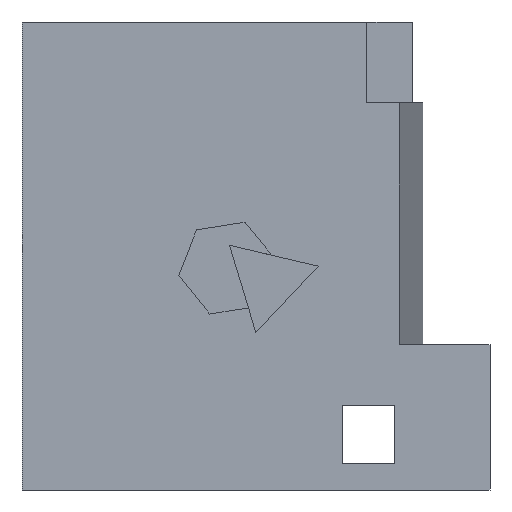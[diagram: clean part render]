
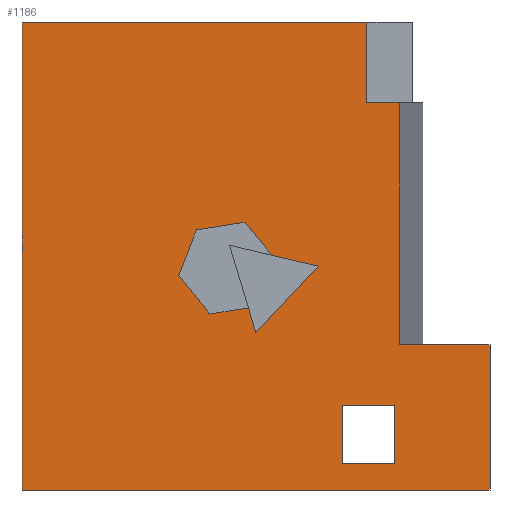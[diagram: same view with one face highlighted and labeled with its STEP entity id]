
A CAD part, left-side view. The second image highlights one B-rep face of the part: STEP entity #1186.
In plain terms, the highlighted planar face has unit normal (-1, 0, 0).
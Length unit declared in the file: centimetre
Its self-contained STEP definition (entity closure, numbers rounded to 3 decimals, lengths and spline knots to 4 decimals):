
#5 = VECTOR ( 'NONE', #46, 100. ) ;
#14 = CARTESIAN_POINT ( 'NONE',  ( 0., 627.2361, 555.7844 ) ) ;
#15 = VERTEX_POINT ( 'NONE', #320 ) ;
#20 = LINE ( 'NONE', #1095, #244 ) ;
#32 = CARTESIAN_POINT ( 'NONE',  ( 0., 500.4519, 336.9322 ) ) ;
#37 = ORIENTED_EDGE ( 'NONE', *, *, #294, .F. ) ;
#44 = VECTOR ( 'NONE', #1051, 100. ) ;
#46 = DIRECTION ( 'NONE',  ( 0., -0.988, 0.156 ) ) ;
#47 = EDGE_CURVE ( 'NONE', #54, #1374, #857, .T. ) ;
#50 = EDGE_CURVE ( 'NONE', #237, #130, #753, .T. ) ;
#54 = VERTEX_POINT ( 'NONE', #1078 ) ;
#55 = DIRECTION ( 'NONE',  ( 0., 0.974, 0.228 ) ) ;
#57 = LINE ( 'NONE', #282, #1220 ) ;
#62 = CARTESIAN_POINT ( 'NONE',  ( 0., 0., 1000. ) ) ;
#73 = CARTESIAN_POINT ( 'NONE',  ( 0., 466.4924, 501.7801 ) ) ;
#82 = ORIENTED_EDGE ( 'NONE', *, *, #922, .F. ) ;
#87 = VECTOR ( 'NONE', #555, 100. ) ;
#92 = ORIENTED_EDGE ( 'NONE', *, *, #735, .T. ) ;
#97 = CARTESIAN_POINT ( 'NONE',  ( 0., 0., 310.5844 ) ) ;
#105 = ORIENTED_EDGE ( 'NONE', *, *, #622, .F. ) ;
#118 = AXIS2_PLACEMENT_3D ( 'NONE', #150, #341, #348 ) ;
#122 = DIRECTION ( 'NONE',  ( 0., -1., 0. ) ) ;
#130 = VERTEX_POINT ( 'NONE', #359 ) ;
#133 = CARTESIAN_POINT ( 'NONE',  ( 0., 1000., 1000. ) ) ;
#146 = DIRECTION ( 'NONE',  ( 0., -1., 0. ) ) ;
#149 = DIRECTION ( 'NONE',  ( 0., 0.629, 0.777 ) ) ;
#150 = CARTESIAN_POINT ( 'NONE',  ( 0., 1000., 1000. ) ) ;
#156 = CARTESIAN_POINT ( 'NONE',  ( 0., 263.1097, 827.6337 ) ) ;
#158 = ORIENTED_EDGE ( 'NONE', *, *, #538, .T. ) ;
#175 = LINE ( 'NONE', #373, #5 ) ;
#178 = EDGE_CURVE ( 'NONE', #1316, #1374, #20, .T. ) ;
#181 = VECTOR ( 'NONE', #220, 100. ) ;
#200 = EDGE_CURVE ( 'NONE', #879, #1316, #253, .T. ) ;
#216 = DIRECTION ( 'NONE',  ( 0., -0.629, -0.777 ) ) ;
#220 = DIRECTION ( 'NONE',  ( 0., -1., 0. ) ) ;
#223 = VECTOR ( 'NONE', #471, 100. ) ;
#225 = VECTOR ( 'NONE', #960, 100. ) ;
#227 = VERTEX_POINT ( 'NONE', #238 ) ;
#237 = VERTEX_POINT ( 'NONE', #1123 ) ;
#238 = CARTESIAN_POINT ( 'NONE',  ( 0., 204.7984, 55.6721 ) ) ;
#244 = VECTOR ( 'NONE', #146, 100. ) ;
#253 = LINE ( 'NONE', #795, #87 ) ;
#263 = CARTESIAN_POINT ( 'NONE',  ( 0., 523.4571, 572.1807 ) ) ;
#265 = VECTOR ( 'NONE', #122, 100. ) ;
#266 = LINE ( 'NONE', #918, #606 ) ;
#282 = CARTESIAN_POINT ( 'NONE',  ( 0., 314.2644, 55.6721 ) ) ;
#294 = EDGE_CURVE ( 'NONE', #898, #484, #937, .T. ) ;
#295 = CARTESIAN_POINT ( 'NONE',  ( 0., 1000., 1000. ) ) ;
#307 = CARTESIAN_POINT ( 'NONE',  ( 0., 1000., 1000. ) ) ;
#312 = VERTEX_POINT ( 'NONE', #812 ) ;
#320 = CARTESIAN_POINT ( 'NONE',  ( 0., 0., 0. ) ) ;
#339 = ORIENTED_EDGE ( 'NONE', *, *, #47, .T. ) ;
#341 = DIRECTION ( 'NONE',  ( 1., 0., 0. ) ) ;
#348 = DIRECTION ( 'NONE',  ( 0., 0., -1. ) ) ;
#352 = ORIENTED_EDGE ( 'NONE', *, *, #1352, .F. ) ;
#359 = CARTESIAN_POINT ( 'NONE',  ( 0., 598.8368, 376.034 ) ) ;
#373 = CARTESIAN_POINT ( 'NONE',  ( 0., 598.8368, 376.034 ) ) ;
#378 = CARTESIAN_POINT ( 'NONE',  ( 0., 194.1162, 310.5844 ) ) ;
#380 = EDGE_LOOP ( 'NONE', ( #37, #82, #573, #962, #105, #459, #1368, #1323 ) ) ;
#398 = LINE ( 'NONE', #295, #451 ) ;
#417 = LINE ( 'NONE', #307, #1060 ) ;
#421 = DIRECTION ( 'NONE',  ( 0., 1., 0. ) ) ;
#450 = EDGE_CURVE ( 'NONE', #1056, #15, #752, .T. ) ;
#451 = VECTOR ( 'NONE', #617, 100. ) ;
#453 = VECTOR ( 'NONE', #149, 100. ) ;
#458 = PLANE ( 'NONE',  #118 ) ;
#459 = ORIENTED_EDGE ( 'NONE', *, *, #1304, .F. ) ;
#471 = DIRECTION ( 'NONE',  ( 0., -0.684, 0.729 ) ) ;
#484 = VERTEX_POINT ( 'NONE', #14 ) ;
#503 = VERTEX_POINT ( 'NONE', #1059 ) ;
#538 = EDGE_CURVE ( 'NONE', #1068, #1056, #417, .T. ) ;
#552 = LINE ( 'NONE', #897, #223 ) ;
#555 = DIRECTION ( 'NONE',  ( 0., 0., -1. ) ) ;
#566 = ORIENTED_EDGE ( 'NONE', *, *, #604, .F. ) ;
#573 = ORIENTED_EDGE ( 'NONE', *, *, #990, .F. ) ;
#578 = VERTEX_POINT ( 'NONE', #1155 ) ;
#598 = ORIENTED_EDGE ( 'NONE', *, *, #777, .T. ) ;
#599 = LINE ( 'NONE', #62, #908 ) ;
#601 = CARTESIAN_POINT ( 'NONE',  ( 0., 556.6304, 522.9081 ) ) ;
#604 = EDGE_CURVE ( 'NONE', #1068, #879, #398, .T. ) ;
#606 = VECTOR ( 'NONE', #709, 100. ) ;
#617 = DIRECTION ( 'NONE',  ( 0., -1., 0. ) ) ;
#622 = EDGE_CURVE ( 'NONE', #910, #941, #1357, .T. ) ;
#623 = CARTESIAN_POINT ( 'NONE',  ( 0., 194.1162, 827.6337 ) ) ;
#630 = CARTESIAN_POINT ( 'NONE',  ( 0., 627.2361, 555.7844 ) ) ;
#632 = LINE ( 'NONE', #1073, #181 ) ;
#647 = LINE ( 'NONE', #1063, #1281 ) ;
#688 = EDGE_CURVE ( 'NONE', #989, #578, #57, .T. ) ;
#691 = CARTESIAN_POINT ( 'NONE',  ( 0., 523.4571, 572.1807 ) ) ;
#709 = DIRECTION ( 'NONE',  ( 0., 0., -1. ) ) ;
#720 = ORIENTED_EDGE ( 'NONE', *, *, #178, .F. ) ;
#723 = DIRECTION ( 'NONE',  ( 0., -0.289, -0.957 ) ) ;
#735 = EDGE_CURVE ( 'NONE', #578, #312, #632, .T. ) ;
#746 = EDGE_LOOP ( 'NONE', ( #339, #720, #776, #566, #158, #854, #1292, #352 ) ) ;
#751 = VERTEX_POINT ( 'NONE', #97 ) ;
#752 = LINE ( 'NONE', #983, #265 ) ;
#753 = LINE ( 'NONE', #1184, #1181 ) ;
#776 = ORIENTED_EDGE ( 'NONE', *, *, #200, .F. ) ;
#777 = EDGE_CURVE ( 'NONE', #227, #989, #647, .T. ) ;
#795 = CARTESIAN_POINT ( 'NONE',  ( 0., 263.1097, 827.6337 ) ) ;
#796 = EDGE_LOOP ( 'NONE', ( #873, #598, #1104, #92 ) ) ;
#805 = CARTESIAN_POINT ( 'NONE',  ( 0., 457.368, 490.5037 ) ) ;
#812 = CARTESIAN_POINT ( 'NONE',  ( 0., 204.7984, 180.7978 ) ) ;
#823 = DIRECTION ( 'NONE',  ( 0., 0., -1. ) ) ;
#837 = VECTOR ( 'NONE', #1238, 100. ) ;
#854 = ORIENTED_EDGE ( 'NONE', *, *, #450, .T. ) ;
#857 = LINE ( 'NONE', #1282, #1202 ) ;
#873 = ORIENTED_EDGE ( 'NONE', *, *, #1009, .T. ) ;
#879 = VERTEX_POINT ( 'NONE', #902 ) ;
#897 = CARTESIAN_POINT ( 'NONE',  ( 0., 500.4519, 336.9322 ) ) ;
#898 = VERTEX_POINT ( 'NONE', #691 ) ;
#902 = CARTESIAN_POINT ( 'NONE',  ( 0., 263.1097, 1000. ) ) ;
#908 = VECTOR ( 'NONE', #823, 100. ) ;
#910 = VERTEX_POINT ( 'NONE', #1114 ) ;
#912 = LINE ( 'NONE', #1332, #1040 ) ;
#918 = CARTESIAN_POINT ( 'NONE',  ( 0., 204.7984, 55.6721 ) ) ;
#922 = EDGE_CURVE ( 'NONE', #1317, #898, #1121, .T. ) ;
#928 = DIRECTION ( 'NONE',  ( 0., 0., 1. ) ) ;
#937 = LINE ( 'NONE', #263, #44 ) ;
#941 = VERTEX_POINT ( 'NONE', #32 ) ;
#960 = DIRECTION ( 'NONE',  ( 0., 0.359, -0.933 ) ) ;
#962 = ORIENTED_EDGE ( 'NONE', *, *, #1069, .F. ) ;
#983 = CARTESIAN_POINT ( 'NONE',  ( 0., 1000., 0. ) ) ;
#989 = VERTEX_POINT ( 'NONE', #1327 ) ;
#990 = EDGE_CURVE ( 'NONE', #503, #1317, #912, .T. ) ;
#1004 = CARTESIAN_POINT ( 'NONE',  ( 0., 1000., 0. ) ) ;
#1009 = EDGE_CURVE ( 'NONE', #312, #227, #266, .T. ) ;
#1040 = VECTOR ( 'NONE', #55, 100. ) ;
#1045 = EDGE_CURVE ( 'NONE', #751, #15, #599, .T. ) ;
#1051 = DIRECTION ( 'NONE',  ( 0., 0.988, -0.156 ) ) ;
#1056 = VERTEX_POINT ( 'NONE', #1004 ) ;
#1059 = CARTESIAN_POINT ( 'NONE',  ( 0., 367.4813, 478.5722 ) ) ;
#1060 = VECTOR ( 'NONE', #1290, 100. ) ;
#1063 = CARTESIAN_POINT ( 'NONE',  ( 0., 204.7984, 55.6721 ) ) ;
#1068 = VERTEX_POINT ( 'NONE', #133 ) ;
#1069 = EDGE_CURVE ( 'NONE', #941, #503, #552, .T. ) ;
#1072 = LINE ( 'NONE', #630, #225 ) ;
#1073 = CARTESIAN_POINT ( 'NONE',  ( 0., 204.7984, 180.7978 ) ) ;
#1078 = CARTESIAN_POINT ( 'NONE',  ( 0., 194.1162, 310.5844 ) ) ;
#1086 = FACE_BOUND ( 'NONE', #796, .T. ) ;
#1095 = CARTESIAN_POINT ( 'NONE',  ( 0., 70.5605, 827.6337 ) ) ;
#1104 = ORIENTED_EDGE ( 'NONE', *, *, #688, .T. ) ;
#1114 = CARTESIAN_POINT ( 'NONE',  ( 0., 516.2071, 389.0889 ) ) ;
#1116 = FACE_OUTER_BOUND ( 'NONE', #746, .T. ) ;
#1121 = LINE ( 'NONE', #805, #453 ) ;
#1123 = CARTESIAN_POINT ( 'NONE',  ( 0., 664.9259, 457.7111 ) ) ;
#1155 = CARTESIAN_POINT ( 'NONE',  ( 0., 314.2644, 180.7978 ) ) ;
#1181 = VECTOR ( 'NONE', #216, 100. ) ;
#1184 = CARTESIAN_POINT ( 'NONE',  ( 0., 664.9259, 457.7111 ) ) ;
#1186 = ADVANCED_FACE ( 'NONE', ( #1086, #1313, #1116 ), #458, .F. ) ;
#1202 = VECTOR ( 'NONE', #1286, 100. ) ;
#1220 = VECTOR ( 'NONE', #928, 100. ) ;
#1238 = DIRECTION ( 'NONE',  ( 0., -1., 0. ) ) ;
#1239 = VECTOR ( 'NONE', #723, 100. ) ;
#1281 = VECTOR ( 'NONE', #421, 100. ) ;
#1282 = CARTESIAN_POINT ( 'NONE',  ( 0., 194.1162, 310.5844 ) ) ;
#1286 = DIRECTION ( 'NONE',  ( 0., 0., 1. ) ) ;
#1290 = DIRECTION ( 'NONE',  ( 0., 0., -1. ) ) ;
#1292 = ORIENTED_EDGE ( 'NONE', *, *, #1045, .F. ) ;
#1304 = EDGE_CURVE ( 'NONE', #130, #910, #175, .T. ) ;
#1313 = FACE_BOUND ( 'NONE', #380, .T. ) ;
#1316 = VERTEX_POINT ( 'NONE', #156 ) ;
#1317 = VERTEX_POINT ( 'NONE', #73 ) ;
#1323 = ORIENTED_EDGE ( 'NONE', *, *, #1376, .F. ) ;
#1327 = CARTESIAN_POINT ( 'NONE',  ( 0., 314.2644, 55.6721 ) ) ;
#1332 = CARTESIAN_POINT ( 'NONE',  ( 0., 367.4813, 478.5722 ) ) ;
#1338 = LINE ( 'NONE', #378, #837 ) ;
#1352 = EDGE_CURVE ( 'NONE', #54, #751, #1338, .T. ) ;
#1357 = LINE ( 'NONE', #601, #1239 ) ;
#1368 = ORIENTED_EDGE ( 'NONE', *, *, #50, .F. ) ;
#1374 = VERTEX_POINT ( 'NONE', #623 ) ;
#1376 = EDGE_CURVE ( 'NONE', #484, #237, #1072, .T. ) ;
